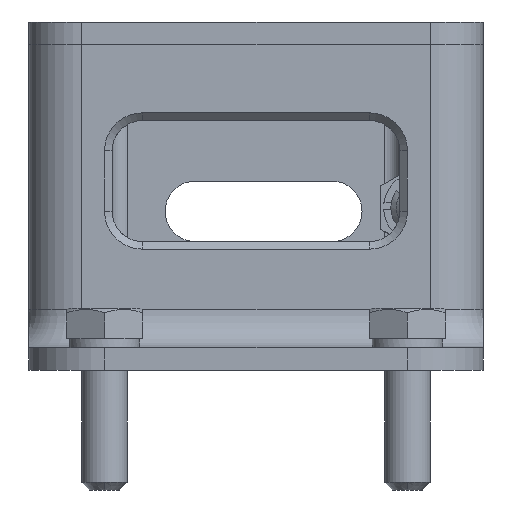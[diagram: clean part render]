
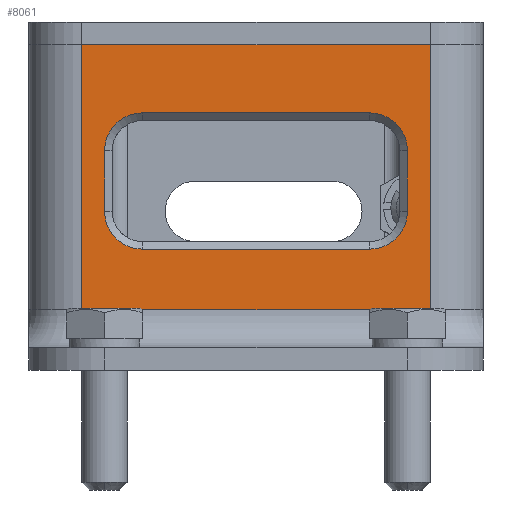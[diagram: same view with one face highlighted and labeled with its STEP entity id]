
A CAD part, left-side view. The second image highlights one B-rep face of the part: STEP entity #8061.
In plain terms, the highlighted planar face has unit normal (-1, 0, 0).
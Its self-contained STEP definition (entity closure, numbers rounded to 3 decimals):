
#7092=CARTESIAN_POINT('',(-40.,44.5,21.5));
#7093=VERTEX_POINT('',#7092);
#7101=CARTESIAN_POINT('',(-40.,-1.5,21.5));
#7102=VERTEX_POINT('',#7101);
#7103=CARTESIAN_POINT('',(-40.,44.5,21.5));
#7104=DIRECTION('',(0.,-1.,0.));
#7105=VECTOR('',#7104,46.);
#7106=LINE('',#7103,#7105);
#7107=EDGE_CURVE('',#7093,#7102,#7106,.T.);
#7961=CARTESIAN_POINT('',(-40.,-8.5,21.5));
#7962=DIRECTION('',(1.,0.,-0.));
#7963=DIRECTION('',(-0.,1.,-0.));
#7964=AXIS2_PLACEMENT_3D('',#7961,#7962,#7963);
#7965=PLANE('',#7964);
#7966=CARTESIAN_POINT('',(-40.,36.5,-5.5));
#7967=VERTEX_POINT('',#7966);
#7968=CARTESIAN_POINT('',(-40.,41.5,-0.5));
#7969=VERTEX_POINT('',#7968);
#7970=CARTESIAN_POINT('',(-40.,36.5,-0.5));
#7971=DIRECTION('',(1.,0.,-0.));
#7972=DIRECTION('',(-0.,1.,-0.));
#7973=AXIS2_PLACEMENT_3D('',#7970,#7971,#7972);
#7974=CIRCLE('',#7973,5.);
#7975=EDGE_CURVE('',#7967,#7969,#7974,.T.);
#7976=ORIENTED_EDGE('',*,*,#7975,.T.);
#7977=CARTESIAN_POINT('',(-40.,41.5,7.5));
#7978=VERTEX_POINT('',#7977);
#7979=CARTESIAN_POINT('',(-40.,41.5,-0.5));
#7980=DIRECTION('',(0.,0.,1.));
#7981=VECTOR('',#7980,8.);
#7982=LINE('',#7979,#7981);
#7983=EDGE_CURVE('',#7969,#7978,#7982,.T.);
#7984=ORIENTED_EDGE('',*,*,#7983,.T.);
#7985=CARTESIAN_POINT('',(-40.,36.5,12.5));
#7986=VERTEX_POINT('',#7985);
#7987=CARTESIAN_POINT('',(-40.,36.5,7.5));
#7988=DIRECTION('',(1.,0.,-0.));
#7989=DIRECTION('',(-0.,1.,-0.));
#7990=AXIS2_PLACEMENT_3D('',#7987,#7988,#7989);
#7991=CIRCLE('',#7990,5.);
#7992=EDGE_CURVE('',#7978,#7986,#7991,.T.);
#7993=ORIENTED_EDGE('',*,*,#7992,.T.);
#7994=CARTESIAN_POINT('',(-40.,6.5,12.5));
#7995=VERTEX_POINT('',#7994);
#7996=CARTESIAN_POINT('',(-40.,36.5,12.5));
#7997=DIRECTION('',(0.,-1.,0.));
#7998=VECTOR('',#7997,30.);
#7999=LINE('',#7996,#7998);
#8000=EDGE_CURVE('',#7986,#7995,#7999,.T.);
#8001=ORIENTED_EDGE('',*,*,#8000,.T.);
#8002=CARTESIAN_POINT('',(-40.,1.5,7.5));
#8003=VERTEX_POINT('',#8002);
#8004=CARTESIAN_POINT('',(-40.,6.5,7.5));
#8005=DIRECTION('',(1.,0.,-0.));
#8006=DIRECTION('',(-0.,1.,-0.));
#8007=AXIS2_PLACEMENT_3D('',#8004,#8005,#8006);
#8008=CIRCLE('',#8007,5.);
#8009=EDGE_CURVE('',#7995,#8003,#8008,.T.);
#8010=ORIENTED_EDGE('',*,*,#8009,.T.);
#8011=CARTESIAN_POINT('',(-40.,1.5,-0.5));
#8012=VERTEX_POINT('',#8011);
#8013=CARTESIAN_POINT('',(-40.,1.5,7.5));
#8014=DIRECTION('',(0.,-0.,-1.));
#8015=VECTOR('',#8014,8.);
#8016=LINE('',#8013,#8015);
#8017=EDGE_CURVE('',#8003,#8012,#8016,.T.);
#8018=ORIENTED_EDGE('',*,*,#8017,.T.);
#8019=CARTESIAN_POINT('',(-40.,6.5,-5.5));
#8020=VERTEX_POINT('',#8019);
#8021=CARTESIAN_POINT('',(-40.,6.5,-0.5));
#8022=DIRECTION('',(1.,0.,-0.));
#8023=DIRECTION('',(-0.,1.,-0.));
#8024=AXIS2_PLACEMENT_3D('',#8021,#8022,#8023);
#8025=CIRCLE('',#8024,5.);
#8026=EDGE_CURVE('',#8012,#8020,#8025,.T.);
#8027=ORIENTED_EDGE('',*,*,#8026,.T.);
#8028=CARTESIAN_POINT('',(-40.,6.5,-5.5));
#8029=DIRECTION('',(-0.,1.,0.));
#8030=VECTOR('',#8029,30.);
#8031=LINE('',#8028,#8030);
#8032=EDGE_CURVE('',#8020,#7967,#8031,.T.);
#8033=ORIENTED_EDGE('',*,*,#8032,.T.);
#8034=EDGE_LOOP('',(#7976,#7984,#7993,#8001,#8010,#8018,#8027,#8033));
#8035=FACE_BOUND('',#8034,.T.);
#8036=CARTESIAN_POINT('',(-40.,44.5,-13.5));
#8037=VERTEX_POINT('',#8036);
#8038=CARTESIAN_POINT('',(-40.,44.5,21.5));
#8039=DIRECTION('',(0.,-0.,-1.));
#8040=VECTOR('',#8039,35.);
#8041=LINE('',#8038,#8040);
#8042=EDGE_CURVE('',#7093,#8037,#8041,.T.);
#8043=ORIENTED_EDGE('',*,*,#8042,.T.);
#8044=CARTESIAN_POINT('',(-40.,-1.5,-13.5));
#8045=VERTEX_POINT('',#8044);
#8046=CARTESIAN_POINT('',(-40.,44.5,-13.5));
#8047=DIRECTION('',(0.,-1.,0.));
#8048=VECTOR('',#8047,46.);
#8049=LINE('',#8046,#8048);
#8050=EDGE_CURVE('',#8037,#8045,#8049,.T.);
#8051=ORIENTED_EDGE('',*,*,#8050,.T.);
#8052=CARTESIAN_POINT('',(-40.,-1.5,-13.5));
#8053=DIRECTION('',(-0.,0.,1.));
#8054=VECTOR('',#8053,35.);
#8055=LINE('',#8052,#8054);
#8056=EDGE_CURVE('',#8045,#7102,#8055,.T.);
#8057=ORIENTED_EDGE('',*,*,#8056,.T.);
#8058=ORIENTED_EDGE('',*,*,#7107,.F.);
#8059=EDGE_LOOP('',(#8043,#8051,#8057,#8058));
#8060=FACE_BOUND('',#8059,.T.);
#8061=ADVANCED_FACE('',(#8035,#8060),#7965,.F.);
